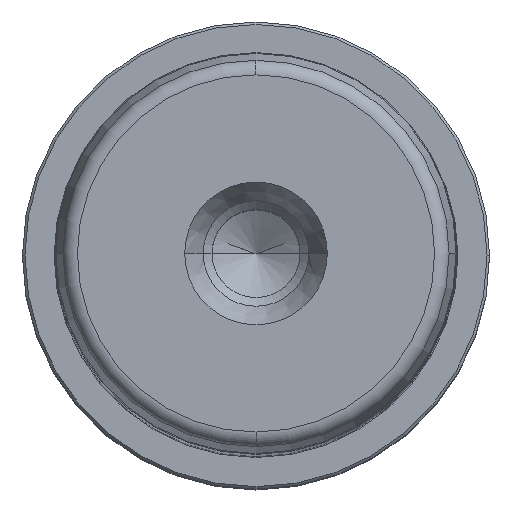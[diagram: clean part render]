
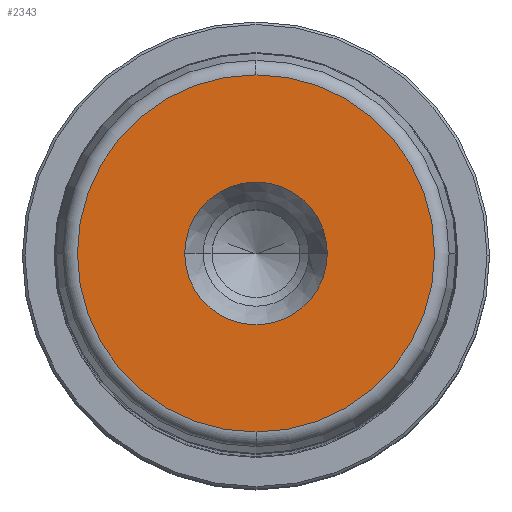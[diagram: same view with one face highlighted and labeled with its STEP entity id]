
A CAD part, top view. The second image highlights one B-rep face of the part: STEP entity #2343.
In plain terms, the highlighted planar face has unit normal (0, 0, 1).
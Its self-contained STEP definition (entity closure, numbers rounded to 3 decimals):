
#431=CARTESIAN_POINT('',(14.2,0.,250.0));
#432=VERTEX_POINT('',#431);
#439=CARTESIAN_POINT('',(-14.2,0.,250.));
#440=VERTEX_POINT('',#439);
#441=CARTESIAN_POINT('',(0.0,0.,250.));
#442=DIRECTION('',(0.0,0.0,1.0));
#443=DIRECTION('',(1.0,0.0,0.0));
#444=AXIS2_PLACEMENT_3D('',#441,#442,#443);
#445=CIRCLE('',#444,14.2);
#446=EDGE_CURVE('',#432,#440,#445,.T.);
#463=CARTESIAN_POINT('',(0.0,-35.554,250.));
#464=VERTEX_POINT('',#463);
#474=CARTESIAN_POINT('',(0.,35.554,250.));
#475=VERTEX_POINT('',#474);
#476=CARTESIAN_POINT('',(0.0,0.,250.));
#477=DIRECTION('',(0.0,0.0,1.0));
#478=DIRECTION('',(1.0,0.0,0.0));
#479=AXIS2_PLACEMENT_3D('',#476,#477,#478);
#480=CIRCLE('',#479,35.554);
#481=EDGE_CURVE('',#475,#464,#480,.T.);
#2304=CARTESIAN_POINT('',(35.554,0.,250.));
#2305=VERTEX_POINT('',#2304);
#2306=CARTESIAN_POINT('',(0.0,0.,250.));
#2307=DIRECTION('',(0.0,0.0,1.0));
#2308=DIRECTION('',(1.0,0.0,0.0));
#2309=AXIS2_PLACEMENT_3D('',#2306,#2307,#2308);
#2310=CIRCLE('',#2309,35.554);
#2311=EDGE_CURVE('',#2305,#475,#2310,.T.);
#2313=CARTESIAN_POINT('',(0.0,0.,250.));
#2314=DIRECTION('',(0.0,0.0,1.0));
#2315=DIRECTION('',(1.0,0.0,0.0));
#2316=AXIS2_PLACEMENT_3D('',#2313,#2314,#2315);
#2317=CIRCLE('',#2316,35.554);
#2318=EDGE_CURVE('',#464,#2305,#2317,.T.);
#2323=CARTESIAN_POINT('',(24.877,0.,250.0));
#2324=DIRECTION('',(0.0,0.0,1.0));
#2325=DIRECTION('',(0.0,-1.0,0.0));
#2326=AXIS2_PLACEMENT_3D('',#2323,#2324,#2325);
#2327=PLANE('',#2326);
#2328=ORIENTED_EDGE('',*,*,#2311,.T.);
#2329=ORIENTED_EDGE('',*,*,#481,.T.);
#2330=ORIENTED_EDGE('',*,*,#2318,.T.);
#2331=EDGE_LOOP('',(#2328,#2329,#2330));
#2332=FACE_OUTER_BOUND('',#2331,.T.);
#2333=ORIENTED_EDGE('',*,*,#446,.F.);
#2334=CARTESIAN_POINT('',(0.0,0.,250.));
#2335=DIRECTION('',(0.0,0.0,1.0));
#2336=DIRECTION('',(1.0,0.0,0.0));
#2337=AXIS2_PLACEMENT_3D('',#2334,#2335,#2336);
#2338=CIRCLE('',#2337,14.2);
#2339=EDGE_CURVE('',#440,#432,#2338,.T.);
#2340=ORIENTED_EDGE('',*,*,#2339,.F.);
#2341=EDGE_LOOP('',(#2333,#2340));
#2342=FACE_BOUND('',#2341,.T.);
#2343=ADVANCED_FACE('',(#2332,#2342),#2327,.T.);
